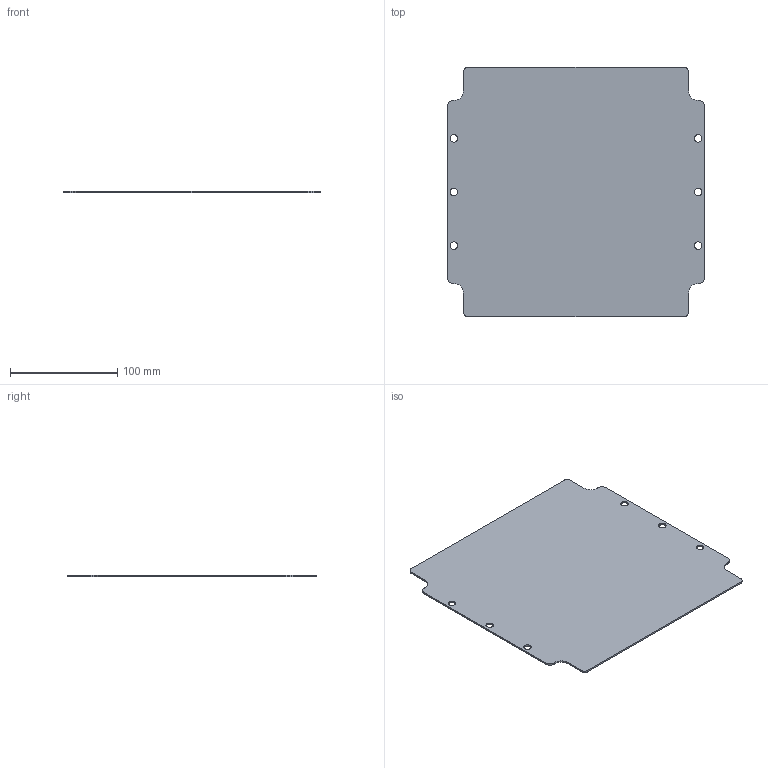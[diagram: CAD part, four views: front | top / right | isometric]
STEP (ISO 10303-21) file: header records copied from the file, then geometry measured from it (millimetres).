
FILE_DESCRIPTION (( 'STEP AP203' ), '1' );
FILE_NAME ('a255250p.STEP', '2013-06-05T17:44:03', ( 'User' ), ( 'Pentair Inc' ), 'SwSTEP 2.0', 'SolidWorks 2010', '' );
FILE_SCHEMA (( 'CONFIG_CONTROL_DESIGN' ));
Length unit declared in the file: inch
Products named in the file (1): a255250p
Bounding box: 240 x 233 x 1.5 mm (x, y, z)
Volume: 80788.4 mm3; surface area: 109287.1 mm2
Topology: 1 solids, 1 shells, 38 faces, 108 edges, 72 vertices
Faces by surface type: cylinder 24, plane 14
Entity records: 1363 total; most frequent: DIRECTION 234, CARTESIAN_POINT 219, ORIENTED_EDGE 216, EDGE_CURVE 108, AXIS2_PLACEMENT_3D 87, VERTEX_POINT 72, VECTOR 60, LINE 60
